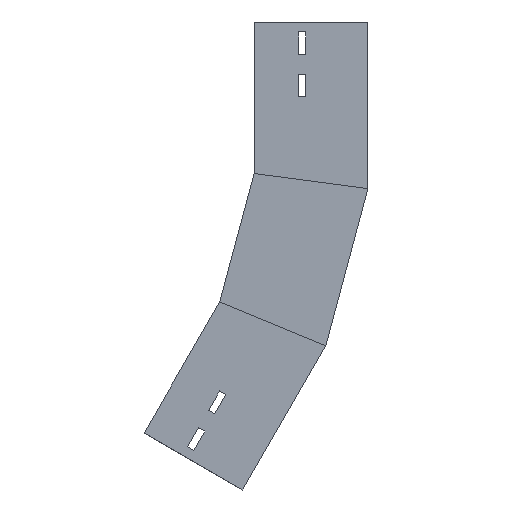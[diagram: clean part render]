
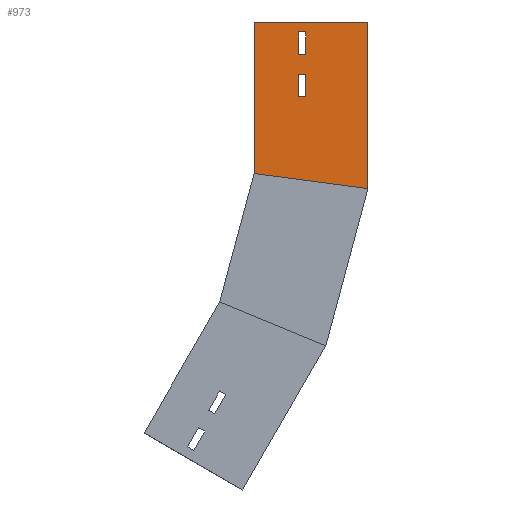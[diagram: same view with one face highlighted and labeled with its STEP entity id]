
A CAD part, left-side view. The second image highlights one B-rep face of the part: STEP entity #973.
In plain terms, the highlighted planar face has unit normal (-1, 0, 0) as drawn and (1, 0, 0) by its records, which use the part's own axes.
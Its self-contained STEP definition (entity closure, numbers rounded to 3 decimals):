
#4 = EDGE_CURVE ( 'NONE', #549, #1056, #453, .T. ) ;
#19 = CARTESIAN_POINT ( 'NONE',  ( 0., 167.349, -400.745 ) ) ;
#59 = VECTOR ( 'NONE', #395, 1000. ) ;
#90 = VERTEX_POINT ( 'NONE', #819 ) ;
#98 = LINE ( 'NONE', #772, #890 ) ;
#100 = VERTEX_POINT ( 'NONE', #697 ) ;
#103 = ORIENTED_EDGE ( 'NONE', *, *, #4, .T. ) ;
#105 = VECTOR ( 'NONE', #984, 1000. ) ;
#233 = CARTESIAN_POINT ( 'NONE',  ( 0., 178.349, -419.798 ) ) ;
#263 = CARTESIAN_POINT ( 'NONE',  ( 0., 41.644, -320.017 ) ) ;
#266 = DIRECTION ( 'NONE',  ( 0., 0.5, -0.866 ) ) ;
#290 = VECTOR ( 'NONE', #777, 1000. ) ;
#305 = ORIENTED_EDGE ( 'NONE', *, *, #623, .F. ) ;
#314 = AXIS2_PLACEMENT_3D ( 'NONE', #263, #1068, #1321 ) ;
#321 = DIRECTION ( 'NONE',  ( 0., -0.5, 0.866 ) ) ;
#365 = LINE ( 'NONE', #445, #290 ) ;
#372 = PLANE ( 'NONE',  #314 ) ;
#378 = DIRECTION ( 'NONE',  ( 0., 0.5, -0.866 ) ) ;
#387 = ORIENTED_EDGE ( 'NONE', *, *, #1490, .F. ) ;
#388 = CARTESIAN_POINT ( 'NONE',  ( 0., 139.072, -263.767 ) ) ;
#395 = DIRECTION ( 'NONE',  ( 0., -0.5, 0.866 ) ) ;
#407 = LINE ( 'NONE', #557, #1425 ) ;
#423 = CARTESIAN_POINT ( 'NONE',  ( 0., 178.349, -419.798 ) ) ;
#425 = CARTESIAN_POINT ( 'NONE',  ( 0., 157.514, -383.711 ) ) ;
#445 = CARTESIAN_POINT ( 'NONE',  ( 0., 146.514, -364.658 ) ) ;
#453 = LINE ( 'NONE', #793, #999 ) ;
#455 = LINE ( 'NONE', #785, #1205 ) ;
#473 = ORIENTED_EDGE ( 'NONE', *, *, #1438, .T. ) ;
#475 = EDGE_CURVE ( 'NONE', #878, #1138, #734, .T. ) ;
#476 = LINE ( 'NONE', #942, #493 ) ;
#493 = VECTOR ( 'NONE', #1404, 1000. ) ;
#499 = EDGE_CURVE ( 'NONE', #871, #980, #850, .T. ) ;
#500 = CARTESIAN_POINT ( 'NONE',  ( 0., 178.349, -419.798 ) ) ;
#536 = DIRECTION ( 'NONE',  ( 0., 0.866, 0.5 ) ) ;
#537 = EDGE_CURVE ( 'NONE', #90, #808, #840, .T. ) ;
#549 = VERTEX_POINT ( 'NONE', #1435 ) ;
#551 = EDGE_LOOP ( 'NONE', ( #1476, #387, #1481, #936 ) ) ;
#557 = CARTESIAN_POINT ( 'NONE',  ( 0., 157.514, -383.711 ) ) ;
#559 = VERTEX_POINT ( 'NONE', #1103 ) ;
#623 = EDGE_CURVE ( 'NONE', #808, #100, #674, .T. ) ;
#632 = VERTEX_POINT ( 'NONE', #753 ) ;
#651 = EDGE_CURVE ( 'NONE', #100, #632, #407, .T. ) ;
#674 = LINE ( 'NONE', #425, #1483 ) ;
#685 = VECTOR ( 'NONE', #266, 1000. ) ;
#697 = CARTESIAN_POINT ( 'NONE',  ( 0., 157.514, -383.711 ) ) ;
#718 = EDGE_CURVE ( 'NONE', #1056, #1138, #98, .T. ) ;
#734 = LINE ( 'NONE', #388, #105 ) ;
#745 = CARTESIAN_POINT ( 'NONE',  ( 0., 123.944, -462.565 ) ) ;
#753 = CARTESIAN_POINT ( 'NONE',  ( 0., 146.514, -364.658 ) ) ;
#772 = CARTESIAN_POINT ( 'NONE',  ( 0., 123.944, -462.565 ) ) ;
#777 = DIRECTION ( 'NONE',  ( 0., -0.866, -0.5 ) ) ;
#785 = CARTESIAN_POINT ( 'NONE',  ( 0., 167.349, -400.745 ) ) ;
#786 = EDGE_LOOP ( 'NONE', ( #913, #305, #900, #934 ) ) ;
#793 = CARTESIAN_POINT ( 'NONE',  ( 0., 41.644, -320.017 ) ) ;
#808 = VERTEX_POINT ( 'NONE', #1142 ) ;
#819 = CARTESIAN_POINT ( 'NONE',  ( 0., 140.452, -368.158 ) ) ;
#825 = VECTOR ( 'NONE', #378, 1000. ) ;
#827 = FACE_OUTER_BOUND ( 'NONE', #1188, .T. ) ;
#837 = LINE ( 'NONE', #1061, #825 ) ;
#840 = LINE ( 'NONE', #1089, #685 ) ;
#843 = VERTEX_POINT ( 'NONE', #905 ) ;
#850 = LINE ( 'NONE', #500, #59 ) ;
#861 = CARTESIAN_POINT ( 'NONE',  ( 0., 221.372, -406.315 ) ) ;
#863 = EDGE_CURVE ( 'NONE', #980, #559, #455, .T. ) ;
#871 = VERTEX_POINT ( 'NONE', #233 ) ;
#878 = VERTEX_POINT ( 'NONE', #1382 ) ;
#890 = VECTOR ( 'NONE', #536, 1000. ) ;
#900 = ORIENTED_EDGE ( 'NONE', *, *, #537, .F. ) ;
#905 = CARTESIAN_POINT ( 'NONE',  ( 0., 172.287, -423.298 ) ) ;
#913 = ORIENTED_EDGE ( 'NONE', *, *, #651, .F. ) ;
#934 = ORIENTED_EDGE ( 'NONE', *, *, #1161, .F. ) ;
#936 = ORIENTED_EDGE ( 'NONE', *, *, #863, .F. ) ;
#942 = CARTESIAN_POINT ( 'NONE',  ( 0., 61.047, -311.98 ) ) ;
#954 = EDGE_CURVE ( 'NONE', #559, #843, #837, .T. ) ;
#973 = ADVANCED_FACE ( 'NONE', ( #1078, #976, #827 ), #372, .F. ) ;
#976 = FACE_BOUND ( 'NONE', #786, .T. ) ;
#980 = VERTEX_POINT ( 'NONE', #19 ) ;
#984 = DIRECTION ( 'NONE',  ( 0., 0.5, -0.866 ) ) ;
#999 = VECTOR ( 'NONE', #1275, 1000. ) ;
#1009 = VECTOR ( 'NONE', #1352, 1000. ) ;
#1056 = VERTEX_POINT ( 'NONE', #745 ) ;
#1061 = CARTESIAN_POINT ( 'NONE',  ( 0., 172.287, -423.298 ) ) ;
#1068 = DIRECTION ( 'NONE',  ( -1., 0., 0. ) ) ;
#1078 = FACE_BOUND ( 'NONE', #551, .T. ) ;
#1089 = CARTESIAN_POINT ( 'NONE',  ( 0., 151.452, -387.211 ) ) ;
#1103 = CARTESIAN_POINT ( 'NONE',  ( 0., 161.287, -404.245 ) ) ;
#1138 = VERTEX_POINT ( 'NONE', #861 ) ;
#1142 = CARTESIAN_POINT ( 'NONE',  ( 0., 151.452, -387.211 ) ) ;
#1161 = EDGE_CURVE ( 'NONE', #632, #90, #365, .T. ) ;
#1188 = EDGE_LOOP ( 'NONE', ( #473, #103, #1333, #1385 ) ) ;
#1205 = VECTOR ( 'NONE', #1266, 1000. ) ;
#1266 = DIRECTION ( 'NONE',  ( 0., -0.866, -0.5 ) ) ;
#1275 = DIRECTION ( 'NONE',  ( 0., 0.5, -0.866 ) ) ;
#1321 = DIRECTION ( 'NONE',  ( 0., 0., 1. ) ) ;
#1333 = ORIENTED_EDGE ( 'NONE', *, *, #718, .T. ) ;
#1345 = LINE ( 'NONE', #423, #1009 ) ;
#1348 = DIRECTION ( 'NONE',  ( 0., 0.866, 0.5 ) ) ;
#1352 = DIRECTION ( 'NONE',  ( 0., 0.866, 0.5 ) ) ;
#1382 = CARTESIAN_POINT ( 'NONE',  ( 0., 146.477, -276.594 ) ) ;
#1385 = ORIENTED_EDGE ( 'NONE', *, *, #475, .F. ) ;
#1404 = DIRECTION ( 'NONE',  ( 0., -0.924, -0.383 ) ) ;
#1425 = VECTOR ( 'NONE', #321, 1000. ) ;
#1435 = CARTESIAN_POINT ( 'NONE',  ( 0., 41.644, -320.017 ) ) ;
#1438 = EDGE_CURVE ( 'NONE', #878, #549, #476, .T. ) ;
#1476 = ORIENTED_EDGE ( 'NONE', *, *, #499, .F. ) ;
#1481 = ORIENTED_EDGE ( 'NONE', *, *, #954, .F. ) ;
#1483 = VECTOR ( 'NONE', #1348, 1000. ) ;
#1490 = EDGE_CURVE ( 'NONE', #843, #871, #1345, .T. ) ;
